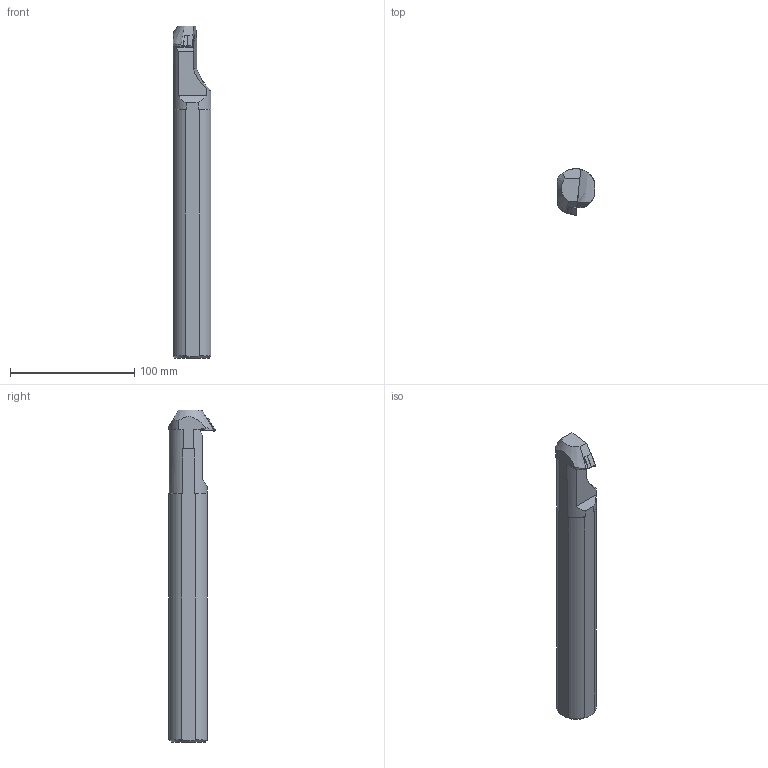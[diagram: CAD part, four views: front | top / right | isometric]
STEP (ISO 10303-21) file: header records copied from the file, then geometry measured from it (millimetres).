
FILE_DESCRIPTION(/* description */ (''),/* implementation_level */ '2;1');
FILE_NAME(/* name */ 'A32S-SDZCR-11-HAAS.stp',/* time_stamp */ '2021-09-29T11:06:33+09:00',/* author */ (''),/* organization */ (''),/* preprocessor_version */ 'ST-DEVELOPER v15',/* originating_system */ 'SIEMENS PLM Software NX 8.5',/* authorisation */ '');
FILE_SCHEMA (('AP203_CONFIGURATION_CONTROLLED_3D_DESIGN_OF_MECHANICAL_PARTS_AND_ASSEMBLIES_MIM_LF { 1 0 10303 403 2 1 2}'));
Length unit declared in the file: millimetre
Products named in the file (1): user6E2824B86919
Bounding box: 30.2 x 37.65 x 267 mm (x, y, z)
Volume: 180800.5 mm3; surface area: 32986.8 mm2
Topology: 3 solids, 3 shells, 62 faces, 158 edges, 103 vertices
Faces by surface type: plane 30, cylinder 16, cone 15, bspline 1
Full cylindrical faces by diameter (mm): 5.4 x1, 6 x1, 8 x1
Entity records: 2016 total; most frequent: CARTESIAN_POINT 473, ORIENTED_EDGE 302, DIRECTION 290, EDGE_CURVE 151, AXIS2_PLACEMENT_3D 107, VERTEX_POINT 100, LINE 76, VECTOR 76
